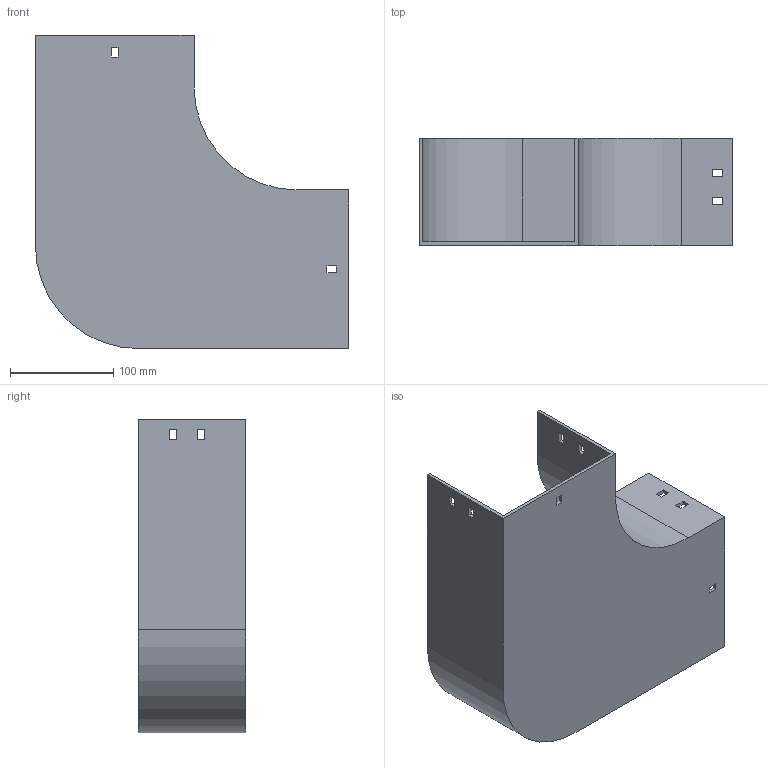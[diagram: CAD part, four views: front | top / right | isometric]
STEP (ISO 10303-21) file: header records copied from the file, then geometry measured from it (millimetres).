
FILE_DESCRIPTION (( 'STEP AP214' ), '1' );
FILE_NAME ('10B1D150.step', '2025-02-21T09:39:32', ( '' ), ( '' ), 'SwSTEP 2.0', 'SolidWorks 2023', '' );
FILE_SCHEMA (( 'AUTOMOTIVE_DESIGN' ));
Length unit declared in the file: millimetre
Products named in the file (1): 10B1D150
Bounding box: 304 x 104 x 304 mm (x, y, z)
Volume: 531531 mm3; surface area: 310263.6 mm2
Topology: 1 solids, 1 shells, 58 faces, 168 edges, 112 vertices
Faces by surface type: plane 54, cylinder 4
Entity records: 1943 total; most frequent: CARTESIAN_POINT 339, ORIENTED_EDGE 336, DIRECTION 294, EDGE_CURVE 168, LINE 160, VECTOR 160, VERTEX_POINT 112, EDGE_LOOP 78
